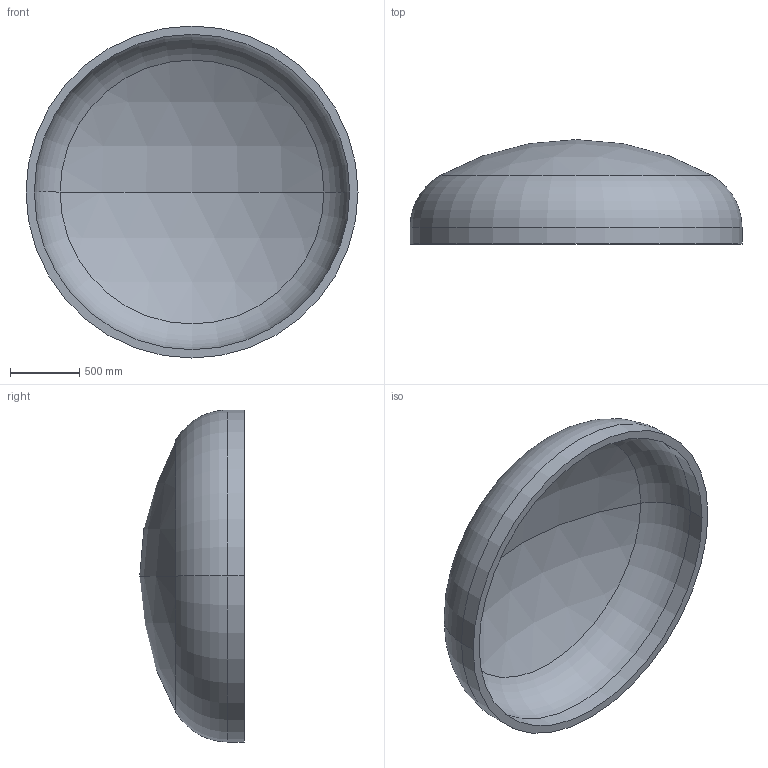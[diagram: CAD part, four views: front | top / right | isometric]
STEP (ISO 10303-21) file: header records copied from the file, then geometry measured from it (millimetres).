
FILE_DESCRIPTION (( 'STEP AP203' ), '1' );
FILE_NAME ('DIN 28013 Korbbogenform_-_Boden DIN 28013 - 2400 x 120 - I - s=60.step', '2016-07-01T15:29:33', ( '' ), ( '' ), 'SwSTEP 2.0', 'SolidWorks 2013', '' );
FILE_SCHEMA (( 'CONFIG_CONTROL_DESIGN' ));
Length unit declared in the file: millimetre
Products named in the file (1): DIN 28013 Korbbogenform_-_Boden DIN 28013 - 2400 x 120 - I - s=60
Bounding box: 2400 x 754.79 x 2400 mm (x, y, z)
Volume: 416812742.1 mm3; surface area: 14342373.1 mm2
Topology: 1 solids, 1 shells, 13 faces, 24 edges, 14 vertices
Faces by surface type: torus 4, cylinder 4, sphere 4, plane 1
Entity records: 407 total; most frequent: DIRECTION 72, CARTESIAN_POINT 52, ORIENTED_EDGE 48, AXIS2_PLACEMENT_3D 34, EDGE_CURVE 24, CIRCLE 20, EDGE_LOOP 14, VERTEX_POINT 14
